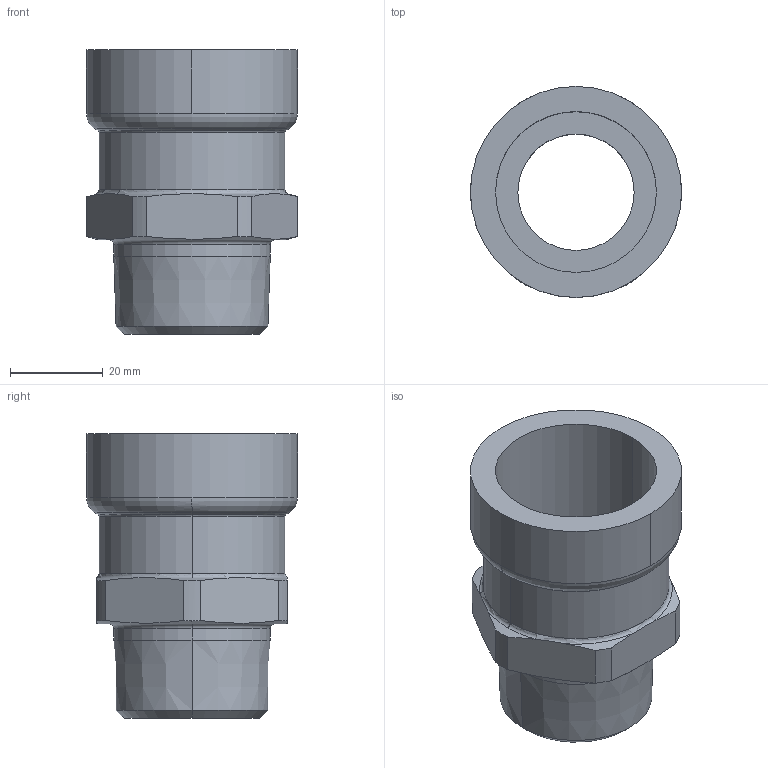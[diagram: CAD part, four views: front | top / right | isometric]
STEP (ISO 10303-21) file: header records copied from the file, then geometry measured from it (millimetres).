
FILE_DESCRIPTION(('Creo Elements/Direct Modeling STEP Export'),'2;1');
FILE_NAME('C9405_1.stp','2020-06-18T14:20:19',(''),(''),'PTC Creo Elements/Direct Modeling STEP processor for AP214 (Solid Model)','PTC Creo Elements/Direct Modeling 19.0C 15-Aug-2015 (C) Parametric Technology GmbH','');
FILE_SCHEMA(('AUTOMOTIVE_DESIGN { 1 0 10303 214 1 1 1 1 }'));
Length unit declared in the file: millimetre
Products named in the file (2): 9405_1.PRT
Assembly tree (1 placements, depth 2):
  9405_1.PRT
    9405_1.PRT
Bounding box: 45.4 x 45.4 x 61.2 mm (x, y, z)
Volume: 29927.1 mm3; surface area: 15677.2 mm2
Topology: 1 solids, 1 shells, 48 faces, 118 edges, 74 vertices
Faces by surface type: cylinder 16, cone 14, plane 10, torus 8
Entity records: 1485 total; most frequent: CARTESIAN_POINT 364, ORIENTED_EDGE 236, DIRECTION 214, EDGE_CURVE 118, AXIS2_PLACEMENT_3D 92, VERTEX_POINT 74, EDGE_LOOP 52, FACE_OUTER_BOUND 48
